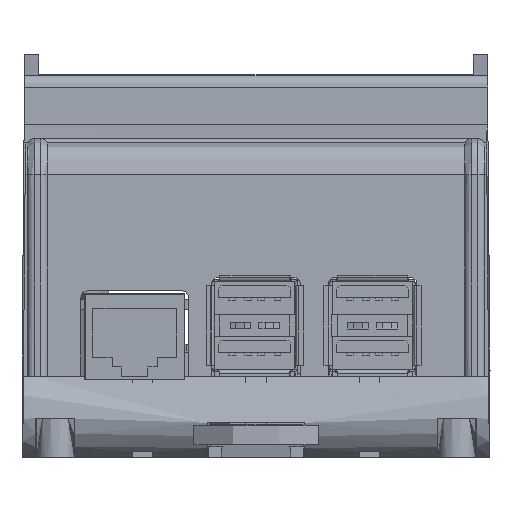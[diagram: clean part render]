
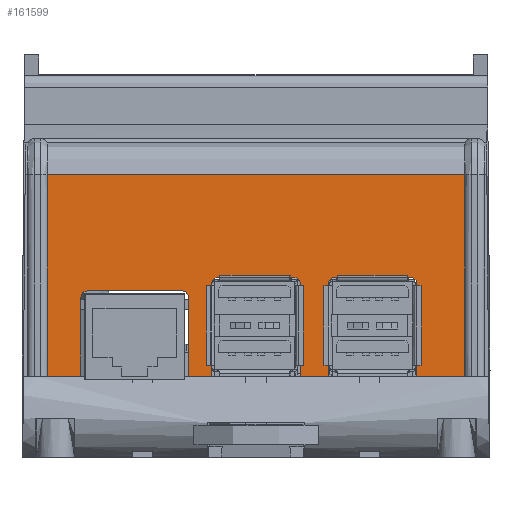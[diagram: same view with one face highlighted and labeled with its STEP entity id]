
A CAD part, front view. The second image highlights one B-rep face of the part: STEP entity #161599.
In plain terms, the highlighted planar face has unit normal (0, -1, 0.018).
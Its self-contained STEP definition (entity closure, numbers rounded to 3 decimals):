
#2069=CIRCLE('',#170509,1.);
#2071=CIRCLE('',#170513,1.);
#2073=CIRCLE('',#170519,1.);
#2075=CIRCLE('',#170523,1.);
#2077=CIRCLE('',#170528,1.);
#2079=CIRCLE('',#170532,1.);
#8857=FACE_OUTER_BOUND('',#17149,.T.);
#17149=EDGE_LOOP('',(#108040,#108041,#108042,#108043,#108044,#108045,#108046,
#108047,#108048,#108049,#108050,#108051,#108052,#108053,#108054,#108055,
#108056,#108057,#108058,#108059,#108060,#108061));
#27996=LINE('',#232248,#46461);
#28000=LINE('',#232261,#46465);
#28005=LINE('',#232273,#46470);
#28008=LINE('',#232281,#46473);
#28011=LINE('',#232288,#46476);
#28016=LINE('',#232302,#46481);
#28020=LINE('',#232314,#46485);
#28023=LINE('',#232321,#46488);
#28028=LINE('',#232335,#46493);
#28030=LINE('',#232341,#46495);
#28031=LINE('',#232342,#46496);
#28032=LINE('',#232344,#46497);
#28033=LINE('',#232346,#46498);
#28034=LINE('',#232348,#46499);
#28035=LINE('',#232350,#46500);
#28036=LINE('',#232351,#46501);
#46461=VECTOR('',#187401,1000.);
#46465=VECTOR('',#187413,1000.);
#46470=VECTOR('',#187426,1000.);
#46473=VECTOR('',#187431,1000.);
#46476=VECTOR('',#187436,1000.);
#46481=VECTOR('',#187449,1000.);
#46485=VECTOR('',#187461,1000.);
#46488=VECTOR('',#187466,1000.);
#46493=VECTOR('',#187479,1000.);
#46495=VECTOR('',#187489,1000.);
#46496=VECTOR('',#187490,1000.);
#46497=VECTOR('',#187491,1000.);
#46498=VECTOR('',#187492,1000.);
#46499=VECTOR('',#187493,1000.);
#46500=VECTOR('',#187494,1000.);
#46501=VECTOR('',#187495,1000.);
#64300=VERTEX_POINT('',#232245);
#64301=VERTEX_POINT('',#232247);
#64303=VERTEX_POINT('',#232253);
#64304=VERTEX_POINT('',#232257);
#64306=VERTEX_POINT('',#232260);
#64309=VERTEX_POINT('',#232268);
#64312=VERTEX_POINT('',#232278);
#64313=VERTEX_POINT('',#232280);
#64314=VERTEX_POINT('',#232284);
#64316=VERTEX_POINT('',#232287);
#64319=VERTEX_POINT('',#232295);
#64321=VERTEX_POINT('',#232301);
#64324=VERTEX_POINT('',#232311);
#64325=VERTEX_POINT('',#232313);
#64326=VERTEX_POINT('',#232317);
#64328=VERTEX_POINT('',#232320);
#64331=VERTEX_POINT('',#232328);
#64333=VERTEX_POINT('',#232334);
#64334=VERTEX_POINT('',#232343);
#64335=VERTEX_POINT('',#232345);
#64336=VERTEX_POINT('',#232347);
#64337=VERTEX_POINT('',#232349);
#80910=EDGE_CURVE('',#64301,#64300,#27996,.T.);
#80914=EDGE_CURVE('',#64300,#64303,#2069,.T.);
#80916=EDGE_CURVE('',#64306,#64304,#28000,.T.);
#80920=EDGE_CURVE('',#64309,#64306,#2071,.T.);
#80923=EDGE_CURVE('',#64303,#64309,#28005,.T.);
#80926=EDGE_CURVE('',#64313,#64312,#28008,.T.);
#80929=EDGE_CURVE('',#64316,#64314,#28011,.T.);
#80933=EDGE_CURVE('',#64319,#64316,#2073,.T.);
#80936=EDGE_CURVE('',#64321,#64319,#28016,.T.);
#80939=EDGE_CURVE('',#64312,#64321,#2075,.T.);
#80942=EDGE_CURVE('',#64325,#64324,#28020,.T.);
#80945=EDGE_CURVE('',#64328,#64326,#28023,.T.);
#80949=EDGE_CURVE('',#64331,#64328,#2077,.T.);
#80952=EDGE_CURVE('',#64333,#64331,#28028,.T.);
#80955=EDGE_CURVE('',#64324,#64333,#2079,.T.);
#80956=EDGE_CURVE('',#64313,#64304,#28030,.T.);
#80957=EDGE_CURVE('',#64325,#64314,#28031,.T.);
#80958=EDGE_CURVE('',#64334,#64326,#28032,.T.);
#80959=EDGE_CURVE('',#64335,#64334,#28033,.T.);
#80960=EDGE_CURVE('',#64335,#64336,#28034,.T.);
#80961=EDGE_CURVE('',#64336,#64337,#28035,.T.);
#80962=EDGE_CURVE('',#64301,#64337,#28036,.T.);
#108040=ORIENTED_EDGE('',*,*,#80910,.T.);
#108041=ORIENTED_EDGE('',*,*,#80914,.T.);
#108042=ORIENTED_EDGE('',*,*,#80923,.T.);
#108043=ORIENTED_EDGE('',*,*,#80920,.T.);
#108044=ORIENTED_EDGE('',*,*,#80916,.T.);
#108045=ORIENTED_EDGE('',*,*,#80956,.F.);
#108046=ORIENTED_EDGE('',*,*,#80926,.T.);
#108047=ORIENTED_EDGE('',*,*,#80939,.T.);
#108048=ORIENTED_EDGE('',*,*,#80936,.T.);
#108049=ORIENTED_EDGE('',*,*,#80933,.T.);
#108050=ORIENTED_EDGE('',*,*,#80929,.T.);
#108051=ORIENTED_EDGE('',*,*,#80957,.F.);
#108052=ORIENTED_EDGE('',*,*,#80942,.T.);
#108053=ORIENTED_EDGE('',*,*,#80955,.T.);
#108054=ORIENTED_EDGE('',*,*,#80952,.T.);
#108055=ORIENTED_EDGE('',*,*,#80949,.T.);
#108056=ORIENTED_EDGE('',*,*,#80945,.T.);
#108057=ORIENTED_EDGE('',*,*,#80958,.F.);
#108058=ORIENTED_EDGE('',*,*,#80959,.F.);
#108059=ORIENTED_EDGE('',*,*,#80960,.T.);
#108060=ORIENTED_EDGE('',*,*,#80961,.T.);
#108061=ORIENTED_EDGE('',*,*,#80962,.F.);
#146779=PLANE('',#170533);
#161599=ADVANCED_FACE('',(#8857),#146779,.F.);
#170509=AXIS2_PLACEMENT_3D('',#232255,#187408,#187409);
#170513=AXIS2_PLACEMENT_3D('',#232269,#187420,#187421);
#170519=AXIS2_PLACEMENT_3D('',#232296,#187443,#187444);
#170523=AXIS2_PLACEMENT_3D('',#232306,#187455,#187456);
#170528=AXIS2_PLACEMENT_3D('',#232329,#187473,#187474);
#170532=AXIS2_PLACEMENT_3D('',#232339,#187485,#187486);
#170533=AXIS2_PLACEMENT_3D('',#232340,#187487,#187488);
#187401=DIRECTION('',(0.,0.017,1.));
#187408=DIRECTION('center_axis',(0.,1.,
-0.017));
#187409=DIRECTION('ref_axis',(-1.,0.,0.));
#187413=DIRECTION('',(0.,-0.017,-1.));
#187420=DIRECTION('center_axis',(0.,1.,
-0.017));
#187421=DIRECTION('ref_axis',(0.,0.017,1.));
#187426=DIRECTION('',(1.,0.,0.));
#187431=DIRECTION('',(0.,0.017,1.));
#187436=DIRECTION('',(0.,-0.017,-1.));
#187443=DIRECTION('center_axis',(0.,1.,
-0.017));
#187444=DIRECTION('ref_axis',(0.,0.017,1.));
#187449=DIRECTION('',(1.,0.,0.));
#187455=DIRECTION('center_axis',(0.,1.,
-0.017));
#187456=DIRECTION('ref_axis',(-1.,0.,0.));
#187461=DIRECTION('',(0.,0.017,1.));
#187466=DIRECTION('',(0.,-0.017,-1.));
#187473=DIRECTION('center_axis',(0.,1.,
-0.017));
#187474=DIRECTION('ref_axis',(0.,0.017,1.));
#187479=DIRECTION('',(1.,0.,0.));
#187485=DIRECTION('center_axis',(0.,1.,
-0.017));
#187486=DIRECTION('ref_axis',(-1.,0.,0.));
#187487=DIRECTION('center_axis',(0.,1.,
-0.017));
#187488=DIRECTION('ref_axis',(-1.,0.,0.));
#187489=DIRECTION('',(-1.,0.,0.));
#187490=DIRECTION('',(-1.,0.,0.));
#187491=DIRECTION('',(-1.,0.,0.));
#187492=DIRECTION('',(0.,-0.017,-1.));
#187493=DIRECTION('',(-1.,0.,0.));
#187494=DIRECTION('',(0.,-0.017,-1.));
#187495=DIRECTION('',(-1.,0.,0.));
#232245=CARTESIAN_POINT('',(-27.085,-44.898,24.693));
#232247=CARTESIAN_POINT('',(-27.085,-45.111,12.495));
#232248=CARTESIAN_POINT('',(-27.085,-44.796,30.517));
#232253=CARTESIAN_POINT('',(-26.085,-44.881,25.693));
#232255=CARTESIAN_POINT('Origin',(-26.085,-44.898,24.693));
#232257=CARTESIAN_POINT('',(-10.385,-45.111,12.495));
#232260=CARTESIAN_POINT('',(-10.385,-44.898,24.693));
#232261=CARTESIAN_POINT('',(-10.385,-44.69,36.616));
#232268=CARTESIAN_POINT('',(-11.385,-44.881,25.693));
#232269=CARTESIAN_POINT('Origin',(-11.385,-44.898,24.693));
#232273=CARTESIAN_POINT('',(2.374,-44.881,25.693));
#232278=CARTESIAN_POINT('',(-6.842,-44.861,26.793));
#232280=CARTESIAN_POINT('',(-6.842,-45.111,12.495));
#232281=CARTESIAN_POINT('',(-6.842,-44.796,30.517));
#232284=CARTESIAN_POINT('',(6.858,-45.111,12.495));
#232287=CARTESIAN_POINT('',(6.858,-44.861,26.793));
#232288=CARTESIAN_POINT('',(6.858,-44.672,37.666));
#232295=CARTESIAN_POINT('',(5.858,-44.844,27.793));
#232296=CARTESIAN_POINT('Origin',(5.858,-44.861,26.793));
#232301=CARTESIAN_POINT('',(-5.842,-44.844,27.793));
#232302=CARTESIAN_POINT('',(12.495,-44.844,27.793));
#232306=CARTESIAN_POINT('Origin',(-5.842,-44.861,26.793));
#232311=CARTESIAN_POINT('',(11.166,-44.861,26.793));
#232313=CARTESIAN_POINT('',(11.166,-45.111,12.495));
#232314=CARTESIAN_POINT('',(11.166,-44.796,30.517));
#232317=CARTESIAN_POINT('',(24.866,-45.111,12.495));
#232320=CARTESIAN_POINT('',(24.866,-44.861,26.793));
#232321=CARTESIAN_POINT('',(24.866,-44.672,37.666));
#232328=CARTESIAN_POINT('',(23.866,-44.844,27.793));
#232329=CARTESIAN_POINT('Origin',(23.866,-44.861,26.793));
#232334=CARTESIAN_POINT('',(12.166,-44.844,27.793));
#232335=CARTESIAN_POINT('',(21.499,-44.844,27.793));
#232339=CARTESIAN_POINT('Origin',(12.166,-44.861,26.793));
#232340=CARTESIAN_POINT('Origin',(30.833,-44.482,48.539));
#232341=CARTESIAN_POINT('',(30.833,-45.111,12.495));
#232342=CARTESIAN_POINT('',(30.833,-45.111,12.495));
#232343=CARTESIAN_POINT('',(32.296,-45.111,12.495));
#232344=CARTESIAN_POINT('',(30.833,-45.111,12.495));
#232345=CARTESIAN_POINT('',(32.296,-44.568,43.626));
#232346=CARTESIAN_POINT('',(32.296,-45.329,-0.009));
#232347=CARTESIAN_POINT('',(-32.296,-44.568,43.626));
#232348=CARTESIAN_POINT('',(30.833,-44.568,43.626));
#232349=CARTESIAN_POINT('',(-32.296,-45.111,12.495));
#232350=CARTESIAN_POINT('',(-32.296,-45.329,-0.009));
#232351=CARTESIAN_POINT('',(30.833,-45.111,12.495));
